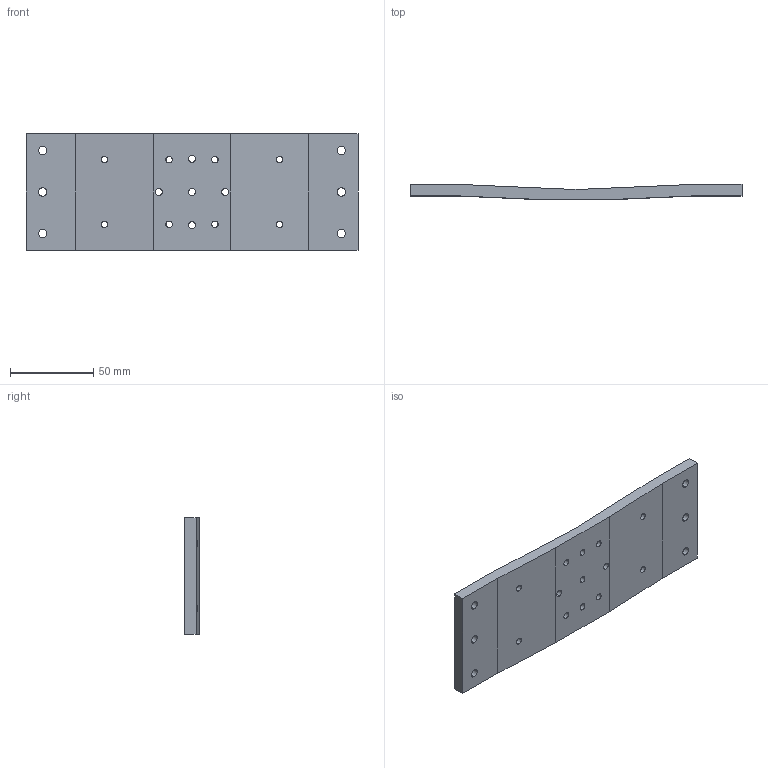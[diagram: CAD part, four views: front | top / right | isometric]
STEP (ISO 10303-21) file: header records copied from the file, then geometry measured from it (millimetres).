
FILE_DESCRIPTION (( 'STEP AP203' ), '1' );
FILE_NAME ('plate_wedge.STEP', '2024-07-01T09:02:34', ( '' ), ( '' ), 'SwSTEP 2.0', 'SolidWorks 2021', '' );
FILE_SCHEMA (( 'CONFIG_CONTROL_DESIGN' ));
Length unit declared in the file: millimetre
Products named in the file (1): plate_wedge
Bounding box: 200 x 9 x 70 mm (x, y, z)
Volume: 93675.9 mm3; surface area: 32893.5 mm2
Topology: 1 solids, 1 shells, 51 faces, 150 edges, 98 vertices
Faces by surface type: cylinder 38, plane 13
Entity records: 1867 total; most frequent: CARTESIAN_POINT 354, ORIENTED_EDGE 300, DIRECTION 294, EDGE_CURVE 150, AXIS2_PLACEMENT_3D 110, VERTEX_POINT 98, EDGE_LOOP 86, LINE 74
